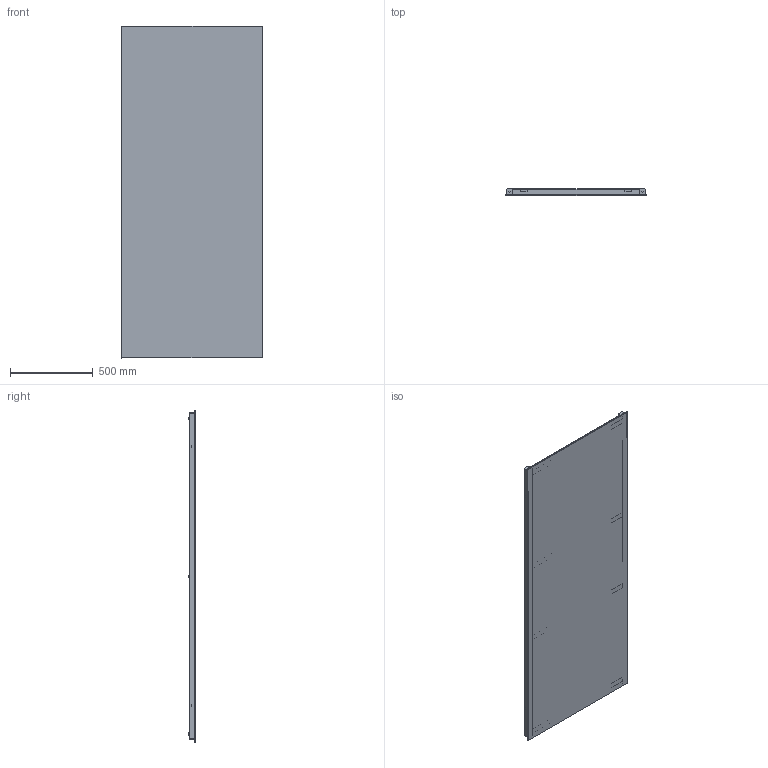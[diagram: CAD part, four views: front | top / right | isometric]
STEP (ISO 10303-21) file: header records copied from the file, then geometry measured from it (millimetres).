
FILE_DESCRIPTION(/* description */ (''),/* implementation_level */ '2;1');
FILE_NAME(/* name */ 'MGR85',/* time_stamp */ '2026-06-09T16:57:42+02:00',/* author */ (''),/* organization */ (''),/* preprocessor_version */ 'ST-DEVELOPER v16.5',/* originating_system */ '',/* authorisation */ '');
FILE_SCHEMA (('AUTOMOTIVE_DESIGN'));
Length unit declared in the file: millimetre
Products named in the file (1): Document
Bounding box: 852 x 44 x 2000 mm (x, y, z)
Volume: 9937243.6 mm3; surface area: 5359386.7 mm2
Topology: 19 solids, 19 shells, 278 faces, 797 edges, 540 vertices
Faces by surface type: bspline 242, plane 36
Entity records: 11643 total; most frequent: CARTESIAN_POINT 7028, ORIENTED_EDGE 1536, EDGE_CURVE 768, VERTEX_POINT 528, B_SPLINE_CURVE_WITH_KNOTS 426, EDGE_LOOP 342, ADVANCED_FACE 278, FACE_OUTER_BOUND 278
